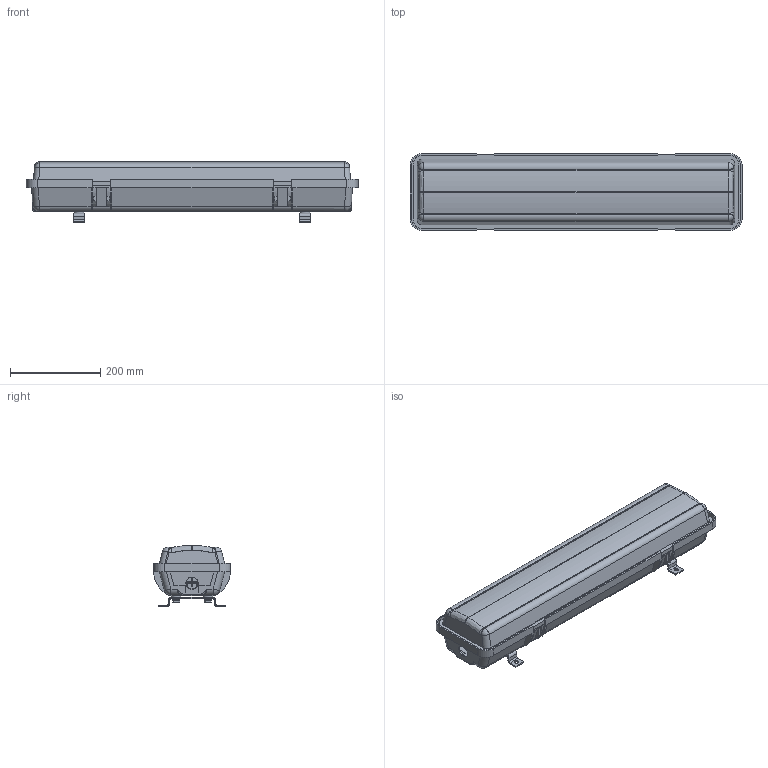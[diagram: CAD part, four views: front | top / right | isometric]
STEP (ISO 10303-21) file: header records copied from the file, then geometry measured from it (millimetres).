
FILE_DESCRIPTION((''),'2;1');
FILE_NAME('C:\Users\L.A.Ronzhin\Desktop\Новая папка (3)\ТЗ 40076\Светильники ГОРЭЛТЕХ\СГЛ01\СГЛ01-2480С-220AC_П.stp','2019-04-11T08:18:08',('L.A.Ronzhin'),(''),'Autodesk Inventor 2012','Autodesk Inventor 2012','');
FILE_SCHEMA(('CONFIG_CONTROL_DESIGN'));
Length unit declared in the file: millimetre
Products named in the file (1): СГЛ01-2480С-220AC_П_Внешний контур_1
Bounding box: 735 x 170 x 135 mm (x, y, z)
Surface area: 1090314.1 mm2 (no closed solid volume)
Topology: 0 solids, 35 shells, 6327 faces, 16783 edges, 11026 vertices
Faces by surface type: plane 3696, bspline 1926, cylinder 535, cone 110, torus 32, sphere 28
Full cylindrical faces by diameter (mm): 2.459 x2, 2.5 x11, 2.6 x8, 3 x8, 3.5 x5, 3.9 x6, 4 x16, 4.14 x6, 4.3 x8, 5 x6, 6 x12, 6.3 x2, 7 x1, 7.323 x4, 8 x8, 8.4 x4, 9 x4, 10 x5, 10.5 x1, 11 x2, 11.4 x4, 12 x2, 13 x1, 16 x4, 16.5 x2, 22 x8, 27 x2
Entity records: 210005 total; most frequent: CARTESIAN_POINT 60792, ORIENTED_EDGE 33060, DIRECTION 22734, EDGE_CURVE 16530, VERTEX_POINT 10978, VECTOR 10886, LINE 10886, EDGE_LOOP 7120
